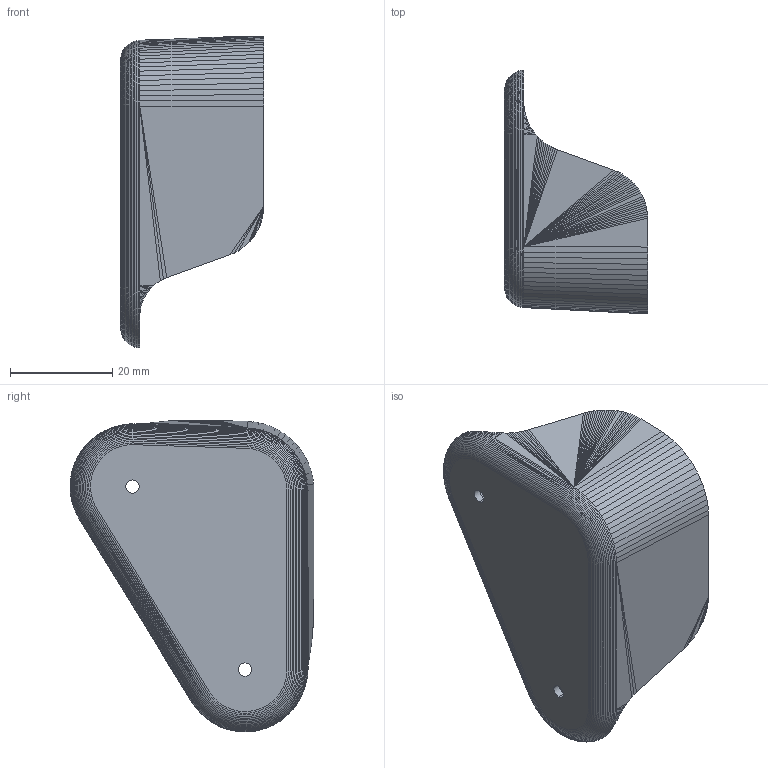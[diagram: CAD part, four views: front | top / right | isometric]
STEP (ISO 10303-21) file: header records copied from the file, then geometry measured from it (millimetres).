
FILE_DESCRIPTION (( 'STEP AP203' ), '1' );
FILE_NAME ('right_upper_leg_衵奻虯-FT.STEP', '2026-10-20T03:01:31', ( '' ), ( '' ), 'SwSTEP 2.0', 'SolidWorks 2021', '' );
FILE_SCHEMA (( 'CONFIG_CONTROL_DESIGN' ));
Length unit declared in the file: millimetre
Products named in the file (1): right_upper_leg_衵奻虯-FT
Bounding box: 28 x 47.66 x 61 mm (x, y, z)
Volume: 4109.5 mm3; surface area: 8374.9 mm2
Topology: 1 solids, 1 shells, 4750 faces, 9563 edges, 4821 vertices
Faces by surface type: plane 4729, cylinder 21
Entity records: 114834 total; most frequent: CARTESIAN_POINT 19489, ORIENTED_EDGE 19126, DIRECTION 18989, EDGE_CURVE 9563, VECTOR 9403, LINE 9403, VERTEX_POINT 4821, AXIS2_PLACEMENT_3D 4793
